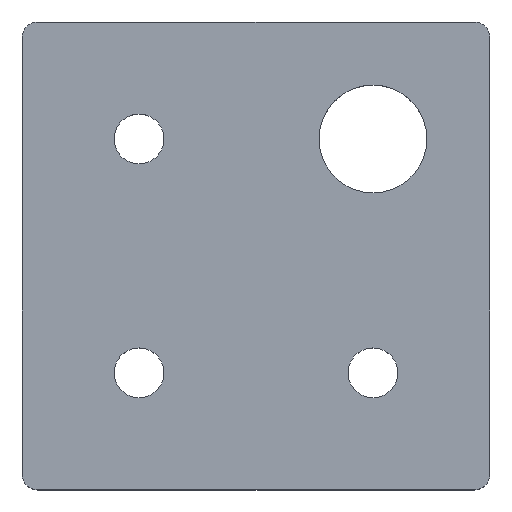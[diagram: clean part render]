
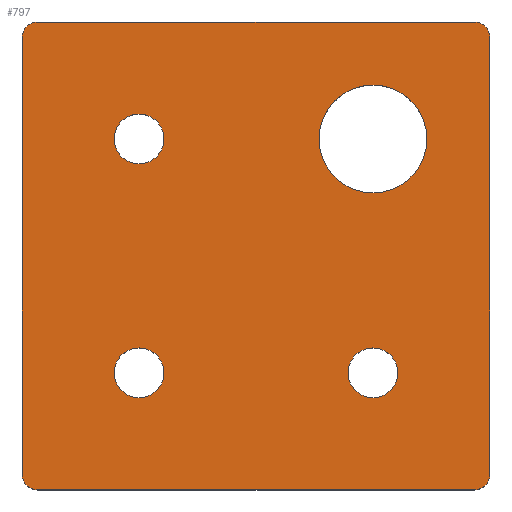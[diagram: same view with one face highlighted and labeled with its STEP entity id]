
A CAD part, top view. The second image highlights one B-rep face of the part: STEP entity #797.
In plain terms, the highlighted planar face has unit normal (0, 0, 1).
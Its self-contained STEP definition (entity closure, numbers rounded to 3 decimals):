
#10 = DIRECTION ( 'NONE',  ( 0., -1., 0. ) ) ;
#16 = CARTESIAN_POINT ( 'NONE',  ( -30., 30., 6. ) ) ;
#26 = ORIENTED_EDGE ( 'NONE', *, *, #274, .T. ) ;
#27 = CARTESIAN_POINT ( 'NONE',  ( 28., -30., 6. ) ) ;
#29 = VERTEX_POINT ( 'NONE', #368 ) ;
#33 = CARTESIAN_POINT ( 'NONE',  ( 21.918, 15., 6. ) ) ;
#38 = VERTEX_POINT ( 'NONE', #359 ) ;
#46 = LINE ( 'NONE', #305, #723 ) ;
#48 = DIRECTION ( 'NONE',  ( 0., 0., -1. ) ) ;
#52 = CIRCLE ( 'NONE', #673, 3.2 ) ;
#55 = VERTEX_POINT ( 'NONE', #428 ) ;
#62 = VECTOR ( 'NONE', #651, 1000. ) ;
#63 = EDGE_CURVE ( 'NONE', #124, #643, #537, .T. ) ;
#66 = VERTEX_POINT ( 'NONE', #627 ) ;
#71 = CARTESIAN_POINT ( 'NONE',  ( -11.8, -15., 6. ) ) ;
#75 = CIRCLE ( 'NONE', #636, 3.2 ) ;
#83 = EDGE_CURVE ( 'NONE', #561, #124, #695, .T. ) ;
#103 = CARTESIAN_POINT ( 'NONE',  ( -18.2, 15., 6. ) ) ;
#106 = DIRECTION ( 'NONE',  ( -1., 0., 0. ) ) ;
#109 = FACE_OUTER_BOUND ( 'NONE', #160, .T. ) ;
#114 = CIRCLE ( 'NONE', #455, 3.2 ) ;
#118 = CARTESIAN_POINT ( 'NONE',  ( 30., 30., 6. ) ) ;
#123 = CIRCLE ( 'NONE', #185, 2. ) ;
#124 = VERTEX_POINT ( 'NONE', #812 ) ;
#129 = CARTESIAN_POINT ( 'NONE',  ( -15., 15., 6. ) ) ;
#135 = CIRCLE ( 'NONE', #324, 3.2 ) ;
#160 = EDGE_LOOP ( 'NONE', ( #867, #670, #647, #869, #426, #506, #805, #544 ) ) ;
#174 = CARTESIAN_POINT ( 'NONE',  ( 8.082, 15., 6. ) ) ;
#181 = CARTESIAN_POINT ( 'NONE',  ( 30., -30., 6. ) ) ;
#185 = AXIS2_PLACEMENT_3D ( 'NONE', #562, #508, #475 ) ;
#192 = PLANE ( 'NONE',  #322 ) ;
#202 = AXIS2_PLACEMENT_3D ( 'NONE', #129, #257, #631 ) ;
#207 = EDGE_CURVE ( 'NONE', #623, #29, #474, .T. ) ;
#208 = DIRECTION ( 'NONE',  ( 1., 0., 0. ) ) ;
#209 = DIRECTION ( 'NONE',  ( 0., 0., 1. ) ) ;
#215 = DIRECTION ( 'NONE',  ( 0., 0., 1. ) ) ;
#217 = CARTESIAN_POINT ( 'NONE',  ( -28., 28., 6. ) ) ;
#219 = VERTEX_POINT ( 'NONE', #483 ) ;
#236 = CARTESIAN_POINT ( 'NONE',  ( 28., -28., 6. ) ) ;
#237 = CARTESIAN_POINT ( 'NONE',  ( 15., -15., 6. ) ) ;
#239 = DIRECTION ( 'NONE',  ( 1., 0., 0. ) ) ;
#241 = CARTESIAN_POINT ( 'NONE',  ( -30., 28., 6. ) ) ;
#244 = DIRECTION ( 'NONE',  ( 0., 0., 1. ) ) ;
#251 = CARTESIAN_POINT ( 'NONE',  ( 15., -15., 6. ) ) ;
#255 = VECTOR ( 'NONE', #10, 1000. ) ;
#257 = DIRECTION ( 'NONE',  ( 0., 0., -1. ) ) ;
#274 = EDGE_CURVE ( 'NONE', #38, #473, #135, .T. ) ;
#280 = FACE_BOUND ( 'NONE', #746, .T. ) ;
#305 = CARTESIAN_POINT ( 'NONE',  ( -30., -30., 6. ) ) ;
#311 = CARTESIAN_POINT ( 'NONE',  ( 30., 28., 6. ) ) ;
#317 = ORIENTED_EDGE ( 'NONE', *, *, #357, .T. ) ;
#322 = AXIS2_PLACEMENT_3D ( 'NONE', #884, #874, #833 ) ;
#324 = AXIS2_PLACEMENT_3D ( 'NONE', #237, #48, #895 ) ;
#327 = CIRCLE ( 'NONE', #632, 2. ) ;
#339 = CARTESIAN_POINT ( 'NONE',  ( -18.2, -15., 6. ) ) ;
#348 = CIRCLE ( 'NONE', #907, 2. ) ;
#352 = EDGE_CURVE ( 'NONE', #473, #38, #597, .T. ) ;
#357 = EDGE_CURVE ( 'NONE', #726, #911, #114, .T. ) ;
#358 = CARTESIAN_POINT ( 'NONE',  ( -15., -15., 6. ) ) ;
#359 = CARTESIAN_POINT ( 'NONE',  ( 11.8, -15., 6. ) ) ;
#360 = DIRECTION ( 'NONE',  ( 0., 0., -1. ) ) ;
#361 = DIRECTION ( 'NONE',  ( 1., 0., 0. ) ) ;
#368 = CARTESIAN_POINT ( 'NONE',  ( -11.8, 15., 6. ) ) ;
#371 = DIRECTION ( 'NONE',  ( -1., 0., 0. ) ) ;
#397 = EDGE_CURVE ( 'NONE', #514, #570, #750, .T. ) ;
#402 = CARTESIAN_POINT ( 'NONE',  ( -15., 15., 6. ) ) ;
#405 = DIRECTION ( 'NONE',  ( -1., 0., 0. ) ) ;
#409 = AXIS2_PLACEMENT_3D ( 'NONE', #251, #360, #708 ) ;
#425 = EDGE_CURVE ( 'NONE', #911, #726, #75, .T. ) ;
#426 = ORIENTED_EDGE ( 'NONE', *, *, #470, .T. ) ;
#427 = CARTESIAN_POINT ( 'NONE',  ( 15., 15., 6. ) ) ;
#428 = CARTESIAN_POINT ( 'NONE',  ( 30., -28., 6. ) ) ;
#430 = ORIENTED_EDGE ( 'NONE', *, *, #207, .T. ) ;
#432 = DIRECTION ( 'NONE',  ( 0., 1., 0. ) ) ;
#433 = DIRECTION ( 'NONE',  ( 0., 0., 1. ) ) ;
#436 = CARTESIAN_POINT ( 'NONE',  ( 18.2, -15., 6. ) ) ;
#439 = EDGE_CURVE ( 'NONE', #29, #623, #52, .T. ) ;
#453 = FACE_BOUND ( 'NONE', #467, .T. ) ;
#455 = AXIS2_PLACEMENT_3D ( 'NONE', #700, #784, #371 ) ;
#462 = ORIENTED_EDGE ( 'NONE', *, *, #439, .T. ) ;
#467 = EDGE_LOOP ( 'NONE', ( #26, #613 ) ) ;
#470 = EDGE_CURVE ( 'NONE', #219, #742, #46, .T. ) ;
#471 = FACE_BOUND ( 'NONE', #856, .T. ) ;
#473 = VERTEX_POINT ( 'NONE', #436 ) ;
#474 = CIRCLE ( 'NONE', #202, 3.2 ) ;
#475 = DIRECTION ( 'NONE',  ( 1., 0., 0. ) ) ;
#482 = DIRECTION ( 'NONE',  ( 1., 0., 0. ) ) ;
#483 = CARTESIAN_POINT ( 'NONE',  ( -28., -30., 6. ) ) ;
#490 = DIRECTION ( 'NONE',  ( 1., 0., 0. ) ) ;
#503 = EDGE_LOOP ( 'NONE', ( #317, #696 ) ) ;
#506 = ORIENTED_EDGE ( 'NONE', *, *, #845, .T. ) ;
#508 = DIRECTION ( 'NONE',  ( 0., 0., 1. ) ) ;
#514 = VERTEX_POINT ( 'NONE', #33 ) ;
#516 = EDGE_CURVE ( 'NONE', #570, #514, #527, .T. ) ;
#527 = CIRCLE ( 'NONE', #855, 6.918 ) ;
#532 = EDGE_CURVE ( 'NONE', #643, #881, #348, .T. ) ;
#537 = LINE ( 'NONE', #118, #62 ) ;
#544 = ORIENTED_EDGE ( 'NONE', *, *, #83, .T. ) ;
#561 = VERTEX_POINT ( 'NONE', #311 ) ;
#562 = CARTESIAN_POINT ( 'NONE',  ( -28., -28., 6. ) ) ;
#570 = VERTEX_POINT ( 'NONE', #174 ) ;
#576 = DIRECTION ( 'NONE',  ( 0., 0., -1. ) ) ;
#582 = LINE ( 'NONE', #16, #255 ) ;
#594 = AXIS2_PLACEMENT_3D ( 'NONE', #427, #433, #482 ) ;
#597 = CIRCLE ( 'NONE', #409, 3.2 ) ;
#613 = ORIENTED_EDGE ( 'NONE', *, *, #352, .T. ) ;
#623 = VERTEX_POINT ( 'NONE', #103 ) ;
#627 = CARTESIAN_POINT ( 'NONE',  ( -30., -28., 6. ) ) ;
#631 = DIRECTION ( 'NONE',  ( -1., 0., 0. ) ) ;
#632 = AXIS2_PLACEMENT_3D ( 'NONE', #236, #209, #208 ) ;
#636 = AXIS2_PLACEMENT_3D ( 'NONE', #358, #576, #106 ) ;
#643 = VERTEX_POINT ( 'NONE', #864 ) ;
#647 = ORIENTED_EDGE ( 'NONE', *, *, #741, .T. ) ;
#651 = DIRECTION ( 'NONE',  ( -1., 0., 0. ) ) ;
#664 = EDGE_CURVE ( 'NONE', #66, #219, #123, .T. ) ;
#670 = ORIENTED_EDGE ( 'NONE', *, *, #532, .T. ) ;
#673 = AXIS2_PLACEMENT_3D ( 'NONE', #402, #880, #405 ) ;
#682 = CARTESIAN_POINT ( 'NONE',  ( 15., 15., 6. ) ) ;
#695 = CIRCLE ( 'NONE', #875, 2. ) ;
#696 = ORIENTED_EDGE ( 'NONE', *, *, #425, .T. ) ;
#700 = CARTESIAN_POINT ( 'NONE',  ( -15., -15., 6. ) ) ;
#708 = DIRECTION ( 'NONE',  ( -1., 0., 0. ) ) ;
#712 = EDGE_CURVE ( 'NONE', #55, #561, #837, .T. ) ;
#723 = VECTOR ( 'NONE', #361, 1000. ) ;
#726 = VERTEX_POINT ( 'NONE', #339 ) ;
#741 = EDGE_CURVE ( 'NONE', #881, #66, #582, .T. ) ;
#742 = VERTEX_POINT ( 'NONE', #27 ) ;
#746 = EDGE_LOOP ( 'NONE', ( #831, #892 ) ) ;
#750 = CIRCLE ( 'NONE', #594, 6.918 ) ;
#784 = DIRECTION ( 'NONE',  ( 0., 0., -1. ) ) ;
#797 = ADVANCED_FACE ( 'NONE', ( #471, #848, #453, #280, #109 ), #192, .T. ) ;
#804 = VECTOR ( 'NONE', #432, 1000. ) ;
#805 = ORIENTED_EDGE ( 'NONE', *, *, #712, .T. ) ;
#812 = CARTESIAN_POINT ( 'NONE',  ( 28., 30., 6. ) ) ;
#831 = ORIENTED_EDGE ( 'NONE', *, *, #397, .F. ) ;
#833 = DIRECTION ( 'NONE',  ( 1., 0., 0. ) ) ;
#837 = LINE ( 'NONE', #181, #804 ) ;
#845 = EDGE_CURVE ( 'NONE', #742, #55, #327, .T. ) ;
#848 = FACE_BOUND ( 'NONE', #503, .T. ) ;
#855 = AXIS2_PLACEMENT_3D ( 'NONE', #682, #244, #239 ) ;
#856 = EDGE_LOOP ( 'NONE', ( #430, #462 ) ) ;
#864 = CARTESIAN_POINT ( 'NONE',  ( -28., 30., 6. ) ) ;
#867 = ORIENTED_EDGE ( 'NONE', *, *, #63, .T. ) ;
#869 = ORIENTED_EDGE ( 'NONE', *, *, #664, .T. ) ;
#870 = DIRECTION ( 'NONE',  ( 1., 0., 0. ) ) ;
#874 = DIRECTION ( 'NONE',  ( 0., 0., 1. ) ) ;
#875 = AXIS2_PLACEMENT_3D ( 'NONE', #897, #877, #870 ) ;
#877 = DIRECTION ( 'NONE',  ( 0., 0., 1. ) ) ;
#880 = DIRECTION ( 'NONE',  ( 0., 0., -1. ) ) ;
#881 = VERTEX_POINT ( 'NONE', #241 ) ;
#884 = CARTESIAN_POINT ( 'NONE',  ( 0., 0., 6. ) ) ;
#892 = ORIENTED_EDGE ( 'NONE', *, *, #516, .F. ) ;
#895 = DIRECTION ( 'NONE',  ( -1., 0., 0. ) ) ;
#897 = CARTESIAN_POINT ( 'NONE',  ( 28., 28., 6. ) ) ;
#907 = AXIS2_PLACEMENT_3D ( 'NONE', #217, #215, #490 ) ;
#911 = VERTEX_POINT ( 'NONE', #71 ) ;
